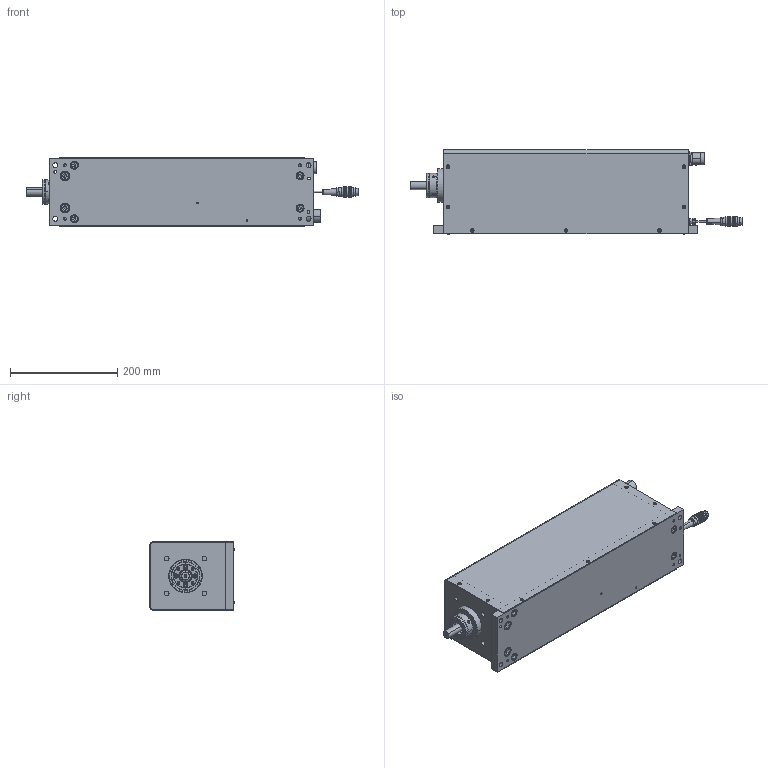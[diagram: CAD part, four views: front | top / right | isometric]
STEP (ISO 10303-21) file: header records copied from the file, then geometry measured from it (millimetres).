
FILE_DESCRIPTION (( 'STEP AP203' ), '1' );
FILE_NAME ('UD5M0600-030-NGNG2 Kundenmodell.STEP', '2020-04-29T06:15:33', ( '' ), ( '' ), 'SwSTEP 2.0', 'SolidWorks 2016', '' );
FILE_SCHEMA (( 'CONFIG_CONTROL_DESIGN' ));
Products named in the file (2): UD5M0600-030-NGNG2 Kundenmodell
Bounding box: 618.5 x 157.17 x 128 mm (x, y, z)
Volume: 1886563.3 mm3; surface area: 719797.4 mm2
Topology: 52 solids, 52 shells, 5630 faces, 13140 edges, 7604 vertices
Faces by surface type: plane 3894, cylinder 1216, cone 361, torus 78, bspline 48, sphere 33
Entity records: 156832 total; most frequent: CARTESIAN_POINT 37103, ORIENTED_EDGE 25870, DIRECTION 23459, EDGE_CURVE 12935, VECTOR 8587, LINE 8587, VERTEX_POINT 7570, AXIS2_PLACEMENT_3D 7436
